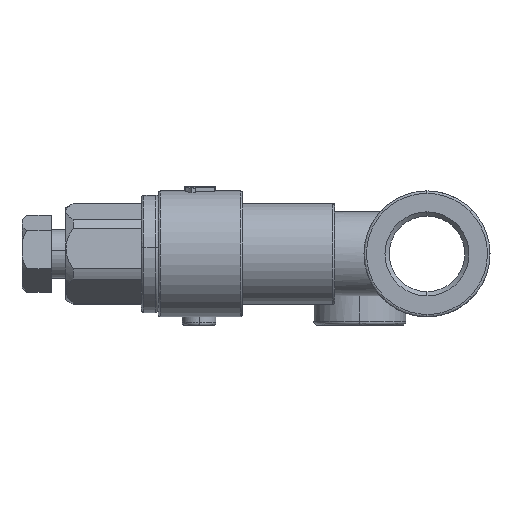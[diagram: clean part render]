
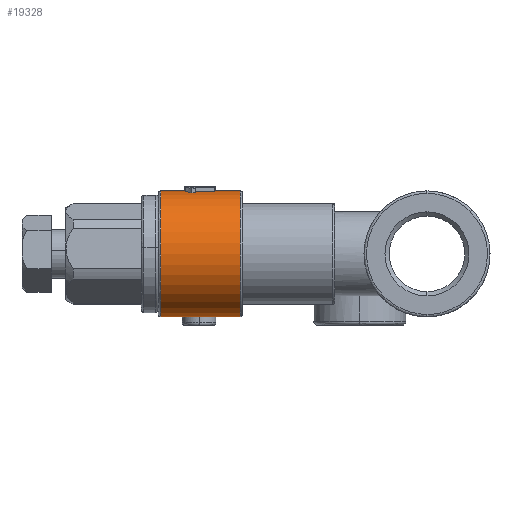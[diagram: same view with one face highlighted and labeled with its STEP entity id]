
A CAD part, left-side view. The second image highlights one B-rep face of the part: STEP entity #19328.
In plain terms, the highlighted cylindrical face has radius 7.5 mm (diameter 15 mm), a partial arc.
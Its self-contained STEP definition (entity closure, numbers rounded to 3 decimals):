
#1092 = CARTESIAN_POINT ( 'NONE',  ( 11.226, 72.582, 134.004 ) ) ;
#1142 = CARTESIAN_POINT ( 'NONE',  ( 11.226, 50.382, 126.504 ) ) ;
#1395 = AXIS2_PLACEMENT_3D ( 'NONE', #9517, #4401, #12695 ) ;
#1960 = VERTEX_POINT ( 'NONE', #12152 ) ;
#3782 = FACE_OUTER_BOUND ( 'NONE', #12973, .T. ) ;
#4117 = EDGE_CURVE ( 'NONE', #1960, #4426, #7116, .T. ) ;
#4401 = DIRECTION ( 'NONE',  ( 0., 1., 0. ) ) ;
#4426 = VERTEX_POINT ( 'NONE', #18128 ) ;
#4628 = AXIS2_PLACEMENT_3D ( 'NONE', #5228, #8405, #5091 ) ;
#5091 = DIRECTION ( 'NONE',  ( 0., 0., -1. ) ) ;
#5228 = CARTESIAN_POINT ( 'NONE',  ( 11.226, 72.582, 126.504 ) ) ;
#6636 = EDGE_CURVE ( 'NONE', #1960, #19501, #16055, .T. ) ;
#7116 = LINE ( 'NONE', #7433, #10225 ) ;
#7433 = CARTESIAN_POINT ( 'NONE',  ( 11.226, 50.382, 119.004 ) ) ;
#7527 = VECTOR ( 'NONE', #20097, 1000. ) ;
#7844 = EDGE_CURVE ( 'NONE', #4426, #15742, #14221, .T. ) ;
#8053 = EDGE_CURVE ( 'NONE', #19501, #15742, #16267, .T. ) ;
#8405 = DIRECTION ( 'NONE',  ( 0., 1., 0. ) ) ;
#9517 = CARTESIAN_POINT ( 'NONE',  ( 11.226, 82.082, 126.504 ) ) ;
#10225 = VECTOR ( 'NONE', #10593, 1000. ) ;
#10593 = DIRECTION ( 'NONE',  ( 0., -1., 0. ) ) ;
#10991 = CYLINDRICAL_SURFACE ( 'NONE', #11023, 7.5 ) ;
#11023 = AXIS2_PLACEMENT_3D ( 'NONE', #1142, #14457, #12803 ) ;
#12152 = CARTESIAN_POINT ( 'NONE',  ( 11.226, 82.082, 119.004 ) ) ;
#12695 = DIRECTION ( 'NONE',  ( 0., 0., 1. ) ) ;
#12803 = DIRECTION ( 'NONE',  ( 0., 0., -1. ) ) ;
#12973 = EDGE_LOOP ( 'NONE', ( #17142, #16054, #18839, #18764 ) ) ;
#14221 = CIRCLE ( 'NONE', #4628, 7.5 ) ;
#14457 = DIRECTION ( 'NONE',  ( 0., -1., 0. ) ) ;
#15742 = VERTEX_POINT ( 'NONE', #1092 ) ;
#16054 = ORIENTED_EDGE ( 'NONE', *, *, #6636, .F. ) ;
#16055 = CIRCLE ( 'NONE', #1395, 7.5 ) ;
#16267 = LINE ( 'NONE', #17007, #7527 ) ;
#17007 = CARTESIAN_POINT ( 'NONE',  ( 11.226, 50.382, 134.004 ) ) ;
#17096 = CARTESIAN_POINT ( 'NONE',  ( 11.226, 82.082, 134.004 ) ) ;
#17142 = ORIENTED_EDGE ( 'NONE', *, *, #8053, .F. ) ;
#18128 = CARTESIAN_POINT ( 'NONE',  ( 11.226, 72.582, 119.004 ) ) ;
#18764 = ORIENTED_EDGE ( 'NONE', *, *, #7844, .T. ) ;
#18839 = ORIENTED_EDGE ( 'NONE', *, *, #4117, .T. ) ;
#19328 = ADVANCED_FACE ( 'NONE', ( #3782 ), #10991, .T. ) ;
#19501 = VERTEX_POINT ( 'NONE', #17096 ) ;
#20097 = DIRECTION ( 'NONE',  ( 0., -1., 0. ) ) ;
